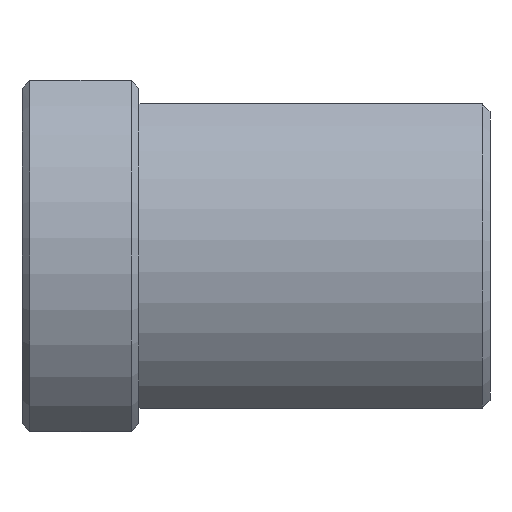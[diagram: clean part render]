
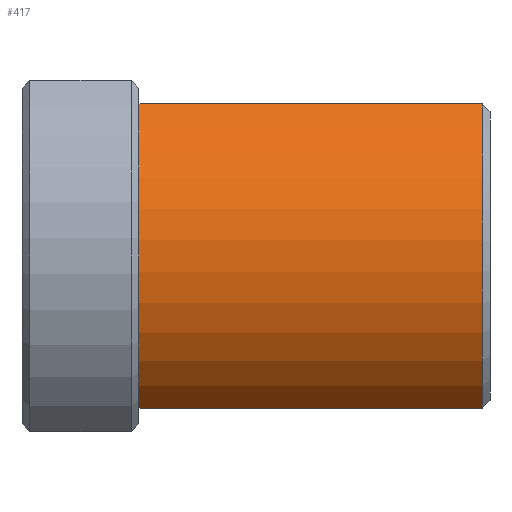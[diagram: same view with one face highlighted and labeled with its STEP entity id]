
A CAD part, left-side view. The second image highlights one B-rep face of the part: STEP entity #417.
In plain terms, the highlighted cylindrical face has radius 5 mm (diameter 10 mm), a partial arc.
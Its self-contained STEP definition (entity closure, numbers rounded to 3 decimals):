
#10 = AXIS2_PLACEMENT_3D ( 'NONE', #710, #412, #586 ) ;
#16 = DIRECTION ( 'NONE',  ( 0., -1., 0. ) ) ;
#30 = CARTESIAN_POINT ( 'NONE',  ( 0., -9., 0. ) ) ;
#133 = CARTESIAN_POINT ( 'NONE',  ( -3.129, 0., -3.9 ) ) ;
#138 = LINE ( 'NONE', #357, #337 ) ;
#142 = VERTEX_POINT ( 'NONE', #297 ) ;
#149 = ORIENTED_EDGE ( 'NONE', *, *, #704, .T. ) ;
#182 = CARTESIAN_POINT ( 'NONE',  ( -3.129, -9., 3.9 ) ) ;
#183 = DIRECTION ( 'NONE',  ( 0., -1., 0. ) ) ;
#190 = LINE ( 'NONE', #182, #372 ) ;
#229 = ORIENTED_EDGE ( 'NONE', *, *, #354, .T. ) ;
#250 = EDGE_LOOP ( 'NONE', ( #276, #590, #229, #149 ) ) ;
#269 = FACE_OUTER_BOUND ( 'NONE', #250, .T. ) ;
#276 = ORIENTED_EDGE ( 'NONE', *, *, #683, .T. ) ;
#297 = CARTESIAN_POINT ( 'NONE',  ( -3.129, -8.8, -3.9 ) ) ;
#313 = CIRCLE ( 'NONE', #10, 5. ) ;
#329 = AXIS2_PLACEMENT_3D ( 'NONE', #30, #498, #336 ) ;
#336 = DIRECTION ( 'NONE',  ( 0., 0., 1. ) ) ;
#337 = VECTOR ( 'NONE', #16, 1000. ) ;
#348 = AXIS2_PLACEMENT_3D ( 'NONE', #366, #183, #533 ) ;
#354 = EDGE_CURVE ( 'NONE', #596, #523, #190, .T. ) ;
#357 = CARTESIAN_POINT ( 'NONE',  ( -3.129, -9., -3.9 ) ) ;
#366 = CARTESIAN_POINT ( 'NONE',  ( 0., 0., 0. ) ) ;
#372 = VECTOR ( 'NONE', #484, 1000. ) ;
#393 = CARTESIAN_POINT ( 'NONE',  ( -3.129, 0., 3.9 ) ) ;
#412 = DIRECTION ( 'NONE',  ( 0., 1., 0. ) ) ;
#417 = ADVANCED_FACE ( 'NONE', ( #269 ), #558, .T. ) ;
#458 = CARTESIAN_POINT ( 'NONE',  ( -3.129, -8.8, 3.9 ) ) ;
#484 = DIRECTION ( 'NONE',  ( 0., 1., 0. ) ) ;
#498 = DIRECTION ( 'NONE',  ( 0., 1., 0. ) ) ;
#523 = VERTEX_POINT ( 'NONE', #393 ) ;
#533 = DIRECTION ( 'NONE',  ( 0., 0., -1. ) ) ;
#558 = CYLINDRICAL_SURFACE ( 'NONE', #329, 5. ) ;
#586 = DIRECTION ( 'NONE',  ( 0., 0., -1. ) ) ;
#590 = ORIENTED_EDGE ( 'NONE', *, *, #715, .T. ) ;
#596 = VERTEX_POINT ( 'NONE', #458 ) ;
#678 = VERTEX_POINT ( 'NONE', #133 ) ;
#683 = EDGE_CURVE ( 'NONE', #678, #142, #138, .T. ) ;
#704 = EDGE_CURVE ( 'NONE', #523, #678, #764, .T. ) ;
#710 = CARTESIAN_POINT ( 'NONE',  ( 0., -8.8, 0. ) ) ;
#715 = EDGE_CURVE ( 'NONE', #142, #596, #313, .T. ) ;
#764 = CIRCLE ( 'NONE', #348, 5. ) ;
